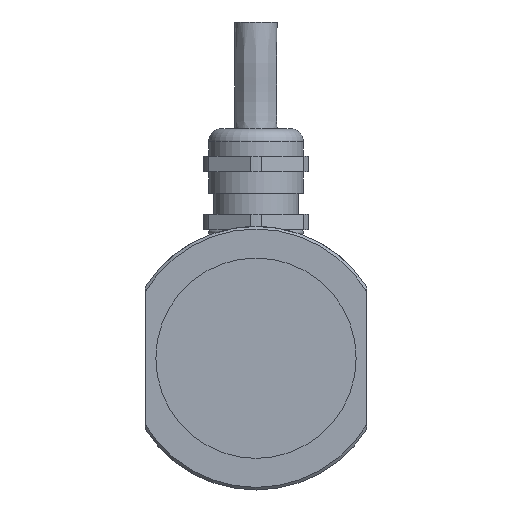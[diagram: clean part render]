
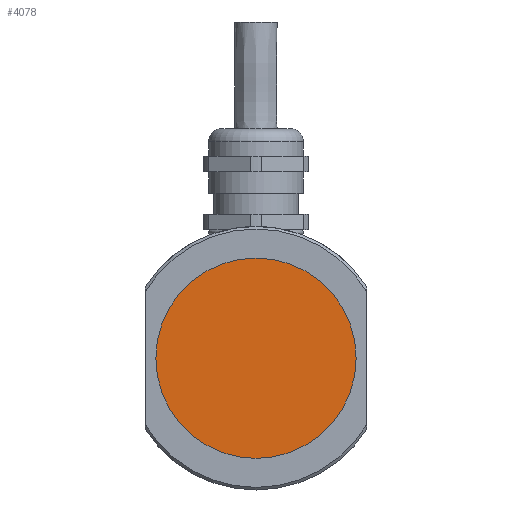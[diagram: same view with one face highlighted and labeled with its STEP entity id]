
A CAD part, left-side view. The second image highlights one B-rep face of the part: STEP entity #4078.
In plain terms, the highlighted planar face has unit normal (-1, 0, 0).
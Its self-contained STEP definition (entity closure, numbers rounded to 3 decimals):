
#1399=PLANE('',#4344);
#1677=VERTEX_POINT('',#8776);
#1856=CIRCLE('',#4343,19.);
#2232=EDGE_CURVE('',#1677,#1677,#1856,.T.);
#3022=ORIENTED_EDGE('',*,*,#2232,.T.);
#3595=EDGE_LOOP('',(#3022));
#3842=FACE_BOUND('',#3595,.T.);
#4078=ADVANCED_FACE('',(#3842),#1399,.T.);
#4343=AXIS2_PLACEMENT_3D('',#8775,#4915,#4916);
#4344=AXIS2_PLACEMENT_3D('',#8777,#4917,$);
#4915=DIRECTION('',(-1.,0.,0.));
#4916=DIRECTION('',(0.,0.,19.));
#4917=DIRECTION('',(-1.,0.,0.));
#8775=CARTESIAN_POINT('',(1.,0.,0.));
#8776=CARTESIAN_POINT('',(1.,0.,19.));
#8777=CARTESIAN_POINT('',(1.,0.,0.));
